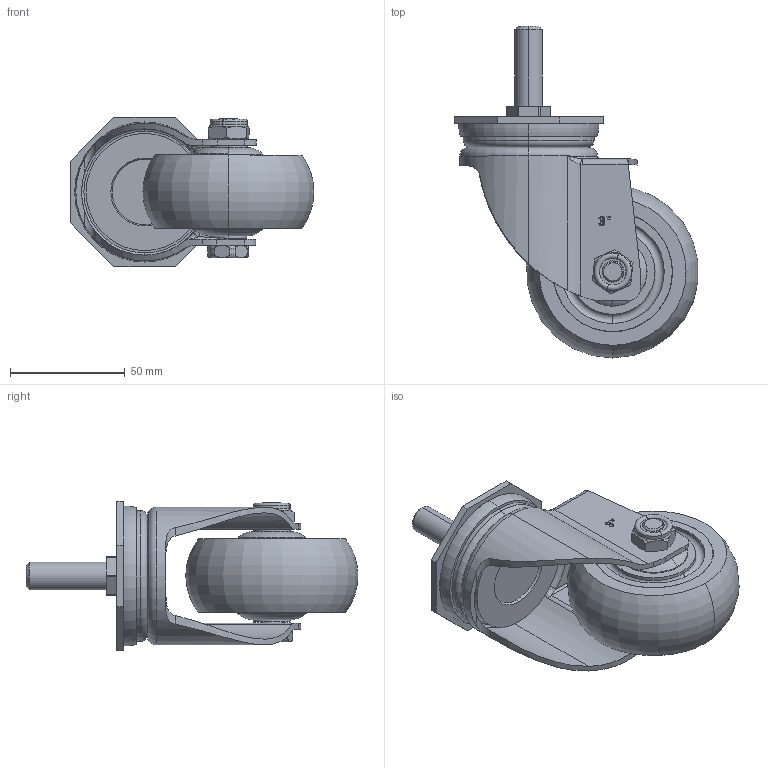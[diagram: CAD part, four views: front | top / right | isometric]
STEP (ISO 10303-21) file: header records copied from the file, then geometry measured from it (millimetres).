
FILE_DESCRIPTION (( 'STEP AP203' ), '1' );
FILE_NAME ('3寸丝扣万向.STEP', '2024-03-19T03:37:08', ( '微软用户' ), ( '微软中国' ), 'SwSTEP 2.0', 'SolidWorks 2008', '' );
FILE_SCHEMA (( 'CONFIG_CONTROL_DESIGN' ));
Length unit declared in the file: millimetre
Products named in the file (7): 3渡佪諶勀砃; 40.2mm中型中管_默认; 2023-3-8  中型3寸万向支架_默认; M10蹟譫; M10-55蹟裝; 中型3寸轮_默认; 丝扣_默认
Assembly tree (6 placements, depth 2):
  3渡佪諶勀砃
    丝扣_默认
    40.2mm中型中管_默认
    中型3寸轮_默认
    2023-3-8  中型3寸万向支架_默认
    M10蹟譫
    M10-55蹟裝
Bounding box: 106.25 x 144.61 x 65.01 mm (x, y, z)
Volume: 213190 mm3; surface area: 63712 mm2
Topology: 6 solids, 6 shells, 467 faces, 1186 edges, 769 vertices
Faces by surface type: plane 180, cylinder 131, bspline 90, torus 46, cone 20
Entity records: 20605 total; most frequent: CARTESIAN_POINT 9239, ORIENTED_EDGE 2364, DIRECTION 1966, EDGE_CURVE 1182, VERTEX_POINT 769, AXIS2_PLACEMENT_3D 701, LINE 564, VECTOR 564
